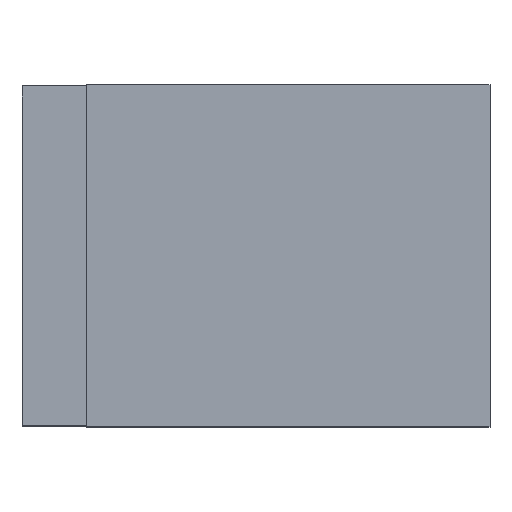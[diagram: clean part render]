
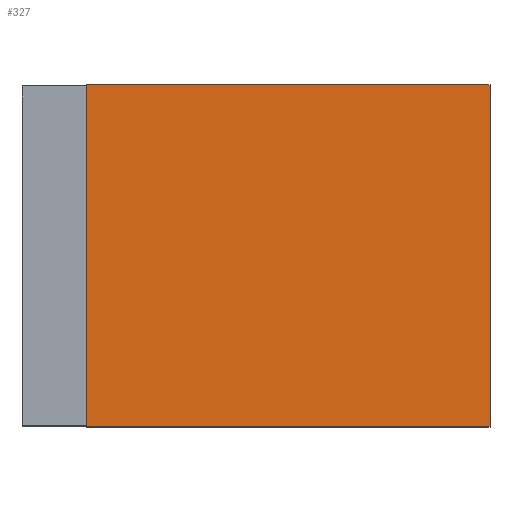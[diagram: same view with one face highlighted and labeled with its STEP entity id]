
A CAD part, top view. The second image highlights one B-rep face of the part: STEP entity #327.
In plain terms, the highlighted planar face has unit normal (0, 0, 1).
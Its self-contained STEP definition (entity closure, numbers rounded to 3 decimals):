
#24 = VERTEX_POINT('',#25);
#25 = CARTESIAN_POINT('',(-18.7,-15.85,13.45));
#32 = PLANE('',#33);
#33 = AXIS2_PLACEMENT_3D('',#34,#35,#36);
#34 = CARTESIAN_POINT('',(-18.7,-15.85,-13.45));
#35 = DIRECTION('',(1.,0.,0.));
#36 = DIRECTION('',(0.,0.,1.));
#44 = PLANE('',#45);
#45 = AXIS2_PLACEMENT_3D('',#46,#47,#48);
#46 = CARTESIAN_POINT('',(-18.7,-15.85,-13.45));
#47 = DIRECTION('',(0.,1.,0.));
#48 = DIRECTION('',(0.,0.,1.));
#85 = VERTEX_POINT('',#86);
#86 = CARTESIAN_POINT('',(-18.7,15.85,13.45));
#100 = PLANE('',#101);
#101 = AXIS2_PLACEMENT_3D('',#102,#103,#104);
#102 = CARTESIAN_POINT('',(-18.7,15.85,-13.45));
#103 = DIRECTION('',(0.,1.,0.));
#104 = DIRECTION('',(0.,0.,1.));
#112 = EDGE_CURVE('',#24,#85,#113,.T.);
#113 = SURFACE_CURVE('',#114,(#118,#125),.PCURVE_S1.);
#114 = LINE('',#115,#116);
#115 = CARTESIAN_POINT('',(-18.7,-15.85,13.45));
#116 = VECTOR('',#117,1.);
#117 = DIRECTION('',(0.,1.,0.));
#118 = PCURVE('',#32,#119);
#119 = DEFINITIONAL_REPRESENTATION('',(#120),#124);
#120 = LINE('',#121,#122);
#121 = CARTESIAN_POINT('',(26.9,0.));
#122 = VECTOR('',#123,1.);
#123 = DIRECTION('',(0.,-1.));
#124 = ( GEOMETRIC_REPRESENTATION_CONTEXT(2) 
PARAMETRIC_REPRESENTATION_CONTEXT() REPRESENTATION_CONTEXT('2D SPACE',''
  ) );
#125 = PCURVE('',#126,#131);
#126 = PLANE('',#127);
#127 = AXIS2_PLACEMENT_3D('',#128,#129,#130);
#128 = CARTESIAN_POINT('',(-18.7,-15.85,13.45));
#129 = DIRECTION('',(0.,0.,1.));
#130 = DIRECTION('',(1.,0.,0.));
#131 = DEFINITIONAL_REPRESENTATION('',(#132),#136);
#132 = LINE('',#133,#134);
#133 = CARTESIAN_POINT('',(0.,0.));
#134 = VECTOR('',#135,1.);
#135 = DIRECTION('',(0.,1.));
#136 = ( GEOMETRIC_REPRESENTATION_CONTEXT(2) 
PARAMETRIC_REPRESENTATION_CONTEXT() REPRESENTATION_CONTEXT('2D SPACE',''
  ) );
#279 = EDGE_CURVE('',#24,#280,#282,.T.);
#280 = VERTEX_POINT('',#281);
#281 = CARTESIAN_POINT('',(18.7,-15.85,13.45));
#282 = SURFACE_CURVE('',#283,(#287,#294),.PCURVE_S1.);
#283 = LINE('',#284,#285);
#284 = CARTESIAN_POINT('',(-18.7,-15.85,13.45));
#285 = VECTOR('',#286,1.);
#286 = DIRECTION('',(1.,0.,0.));
#287 = PCURVE('',#44,#288);
#288 = DEFINITIONAL_REPRESENTATION('',(#289),#293);
#289 = LINE('',#290,#291);
#290 = CARTESIAN_POINT('',(26.9,0.));
#291 = VECTOR('',#292,1.);
#292 = DIRECTION('',(0.,1.));
#293 = ( GEOMETRIC_REPRESENTATION_CONTEXT(2) 
PARAMETRIC_REPRESENTATION_CONTEXT() REPRESENTATION_CONTEXT('2D SPACE',''
  ) );
#294 = PCURVE('',#126,#295);
#295 = DEFINITIONAL_REPRESENTATION('',(#296),#300);
#296 = LINE('',#297,#298);
#297 = CARTESIAN_POINT('',(0.,0.));
#298 = VECTOR('',#299,1.);
#299 = DIRECTION('',(1.,0.));
#300 = ( GEOMETRIC_REPRESENTATION_CONTEXT(2) 
PARAMETRIC_REPRESENTATION_CONTEXT() REPRESENTATION_CONTEXT('2D SPACE',''
  ) );
#316 = PLANE('',#317);
#317 = AXIS2_PLACEMENT_3D('',#318,#319,#320);
#318 = CARTESIAN_POINT('',(18.7,-15.85,-13.45));
#319 = DIRECTION('',(1.,0.,0.));
#320 = DIRECTION('',(0.,0.,1.));
#327 = ADVANCED_FACE('',(#328),#126,.T.);
#328 = FACE_BOUND('',#329,.T.);
#329 = EDGE_LOOP('',(#330,#331,#332,#355));
#330 = ORIENTED_EDGE('',*,*,#112,.F.);
#331 = ORIENTED_EDGE('',*,*,#279,.T.);
#332 = ORIENTED_EDGE('',*,*,#333,.T.);
#333 = EDGE_CURVE('',#280,#334,#336,.T.);
#334 = VERTEX_POINT('',#335);
#335 = CARTESIAN_POINT('',(18.7,15.85,13.45));
#336 = SURFACE_CURVE('',#337,(#341,#348),.PCURVE_S1.);
#337 = LINE('',#338,#339);
#338 = CARTESIAN_POINT('',(18.7,-15.85,13.45));
#339 = VECTOR('',#340,1.);
#340 = DIRECTION('',(0.,1.,0.));
#341 = PCURVE('',#126,#342);
#342 = DEFINITIONAL_REPRESENTATION('',(#343),#347);
#343 = LINE('',#344,#345);
#344 = CARTESIAN_POINT('',(37.4,0.));
#345 = VECTOR('',#346,1.);
#346 = DIRECTION('',(0.,1.));
#347 = ( GEOMETRIC_REPRESENTATION_CONTEXT(2) 
PARAMETRIC_REPRESENTATION_CONTEXT() REPRESENTATION_CONTEXT('2D SPACE',''
  ) );
#348 = PCURVE('',#316,#349);
#349 = DEFINITIONAL_REPRESENTATION('',(#350),#354);
#350 = LINE('',#351,#352);
#351 = CARTESIAN_POINT('',(26.9,0.));
#352 = VECTOR('',#353,1.);
#353 = DIRECTION('',(0.,-1.));
#354 = ( GEOMETRIC_REPRESENTATION_CONTEXT(2) 
PARAMETRIC_REPRESENTATION_CONTEXT() REPRESENTATION_CONTEXT('2D SPACE',''
  ) );
#355 = ORIENTED_EDGE('',*,*,#356,.F.);
#356 = EDGE_CURVE('',#85,#334,#357,.T.);
#357 = SURFACE_CURVE('',#358,(#362,#369),.PCURVE_S1.);
#358 = LINE('',#359,#360);
#359 = CARTESIAN_POINT('',(-18.7,15.85,13.45));
#360 = VECTOR('',#361,1.);
#361 = DIRECTION('',(1.,0.,0.));
#362 = PCURVE('',#126,#363);
#363 = DEFINITIONAL_REPRESENTATION('',(#364),#368);
#364 = LINE('',#365,#366);
#365 = CARTESIAN_POINT('',(0.,31.7));
#366 = VECTOR('',#367,1.);
#367 = DIRECTION('',(1.,0.));
#368 = ( GEOMETRIC_REPRESENTATION_CONTEXT(2) 
PARAMETRIC_REPRESENTATION_CONTEXT() REPRESENTATION_CONTEXT('2D SPACE',''
  ) );
#369 = PCURVE('',#100,#370);
#370 = DEFINITIONAL_REPRESENTATION('',(#371),#375);
#371 = LINE('',#372,#373);
#372 = CARTESIAN_POINT('',(26.9,0.));
#373 = VECTOR('',#374,1.);
#374 = DIRECTION('',(0.,1.));
#375 = ( GEOMETRIC_REPRESENTATION_CONTEXT(2) 
PARAMETRIC_REPRESENTATION_CONTEXT() REPRESENTATION_CONTEXT('2D SPACE',''
  ) );
